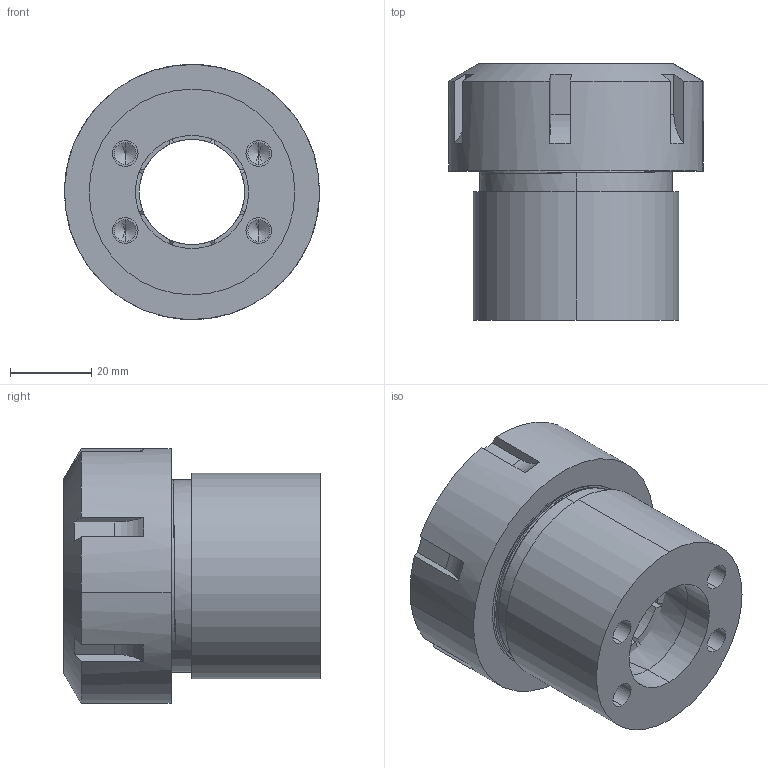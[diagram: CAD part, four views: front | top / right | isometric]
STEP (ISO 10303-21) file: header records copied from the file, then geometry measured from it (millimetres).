
FILE_DESCRIPTION (( 'STEP AP214' ), '1' );
FILE_NAME ('D_CERX-40.STEP', '2020-06-08T15:21:52', ( '' ), ( '' ), 'SwSTEP 2.0', 'SolidWorks 2018', '' );
FILE_SCHEMA (( 'AUTOMOTIVE_DESIGN' ));
Length unit declared in the file: millimetre
Products named in the file (4): D_CERX40-2; D_CERX-40; D_CERX40-3; D_CERX40-1_CER40
Assembly tree (3 placements, depth 2):
  D_CERX-40
    D_CERX40-1_CER40
    D_CERX40-2
    D_CERX40-3
Bounding box: 62.99 x 63.33 x 62.93 mm (x, y, z)
Volume: 108497.4 mm3; surface area: 48554.8 mm2
Topology: 3 solids, 3 shells, 245 faces, 682 edges, 445 vertices
Faces by surface type: plane 115, cylinder 91, cone 37, bspline 2
Entity records: 9494 total; most frequent: CARTESIAN_POINT 3140, ORIENTED_EDGE 1348, DIRECTION 1281, EDGE_CURVE 674, AXIS2_PLACEMENT_3D 498, VERTEX_POINT 445, VECTOR 285, LINE 285
